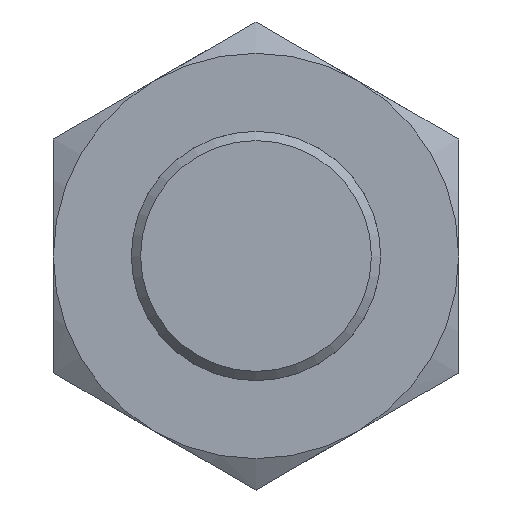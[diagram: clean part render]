
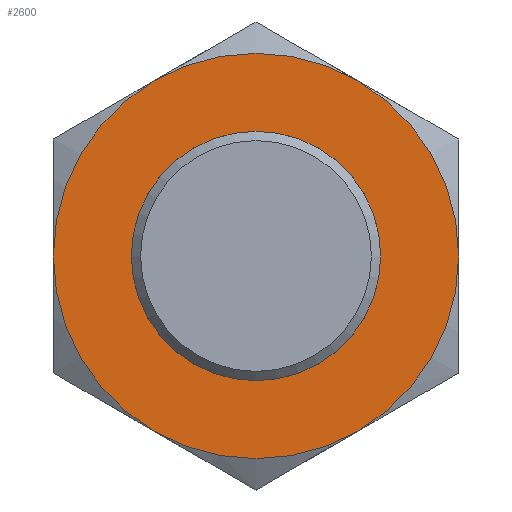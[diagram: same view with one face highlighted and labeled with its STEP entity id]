
A CAD part, left-side view. The second image highlights one B-rep face of the part: STEP entity #2600.
In plain terms, the highlighted planar face has unit normal (-1, 0, 0).
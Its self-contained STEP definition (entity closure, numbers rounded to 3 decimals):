
#60 = AXIS2_PLACEMENT_3D ( 'NONE', #1566, #2641, #348 ) ;
#135 = EDGE_CURVE ( 'NONE', #2475, #2475, #2214, .T. ) ;
#189 = VERTEX_POINT ( 'NONE', #378 ) ;
#210 = DIRECTION ( 'NONE',  ( -1., 0., 0. ) ) ;
#241 = DIRECTION ( 'NONE',  ( 0., 1., 0. ) ) ;
#254 = AXIS2_PLACEMENT_3D ( 'NONE', #2208, #965, #973 ) ;
#279 = CARTESIAN_POINT ( 'NONE',  ( -1.5, 0., 0. ) ) ;
#289 = EDGE_CURVE ( 'NONE', #2568, #480, #1550, .T. ) ;
#321 = VERTEX_POINT ( 'NONE', #2172 ) ;
#347 = ORIENTED_EDGE ( 'NONE', *, *, #1757, .T. ) ;
#348 = DIRECTION ( 'NONE',  ( 0., -1., 0. ) ) ;
#378 = CARTESIAN_POINT ( 'NONE',  ( -1.5, -6.5, 0. ) ) ;
#436 = PLANE ( 'NONE',  #2354 ) ;
#480 = VERTEX_POINT ( 'NONE', #1346 ) ;
#482 = CARTESIAN_POINT ( 'NONE',  ( -1.5, 0., 0. ) ) ;
#491 = DIRECTION ( 'NONE',  ( 0., -1., 0. ) ) ;
#506 = CIRCLE ( 'NONE', #2592, 6.5 ) ;
#512 = VERTEX_POINT ( 'NONE', #2292 ) ;
#544 = DIRECTION ( 'NONE',  ( -1., 0., 0. ) ) ;
#618 = EDGE_LOOP ( 'NONE', ( #1532, #347, #2064, #1641, #2379, #982 ) ) ;
#685 = DIRECTION ( 'NONE',  ( -1., 0., 0. ) ) ;
#812 = CARTESIAN_POINT ( 'NONE',  ( -1.5, 3.25, -5.629 ) ) ;
#926 = FACE_BOUND ( 'NONE', #2305, .T. ) ;
#965 = DIRECTION ( 'NONE',  ( -1., 0., 0. ) ) ;
#973 = DIRECTION ( 'NONE',  ( 0., -1., 0. ) ) ;
#974 = EDGE_CURVE ( 'NONE', #512, #2568, #1324, .T. ) ;
#982 = ORIENTED_EDGE ( 'NONE', *, *, #974, .T. ) ;
#998 = FACE_OUTER_BOUND ( 'NONE', #618, .T. ) ;
#1296 = DIRECTION ( 'NONE',  ( 1., 0., 0. ) ) ;
#1324 = CIRCLE ( 'NONE', #1558, 6.5 ) ;
#1346 = CARTESIAN_POINT ( 'NONE',  ( -1.5, -3.25, -5.629 ) ) ;
#1423 = DIRECTION ( 'NONE',  ( -1., 0., 0. ) ) ;
#1433 = CARTESIAN_POINT ( 'NONE',  ( -1.5, 0., 0. ) ) ;
#1484 = DIRECTION ( 'NONE',  ( 0., -1., 0. ) ) ;
#1532 = ORIENTED_EDGE ( 'NONE', *, *, #289, .T. ) ;
#1544 = CIRCLE ( 'NONE', #1902, 6.5 ) ;
#1550 = CIRCLE ( 'NONE', #2695, 6.5 ) ;
#1552 = EDGE_CURVE ( 'NONE', #1732, #321, #1544, .T. ) ;
#1558 = AXIS2_PLACEMENT_3D ( 'NONE', #1433, #1423, #1857 ) ;
#1566 = CARTESIAN_POINT ( 'NONE',  ( -1.5, 0., 0. ) ) ;
#1641 = ORIENTED_EDGE ( 'NONE', *, *, #1552, .T. ) ;
#1643 = DIRECTION ( 'NONE',  ( 0., -1., 0. ) ) ;
#1644 = EDGE_CURVE ( 'NONE', #321, #512, #1740, .T. ) ;
#1732 = VERTEX_POINT ( 'NONE', #2317 ) ;
#1740 = CIRCLE ( 'NONE', #60, 6.5 ) ;
#1757 = EDGE_CURVE ( 'NONE', #480, #189, #2150, .T. ) ;
#1857 = DIRECTION ( 'NONE',  ( 0., -1., 0. ) ) ;
#1902 = AXIS2_PLACEMENT_3D ( 'NONE', #279, #1940, #2582 ) ;
#1940 = DIRECTION ( 'NONE',  ( -1., 0., 0. ) ) ;
#1975 = CARTESIAN_POINT ( 'NONE',  ( -1.5, -4., 0. ) ) ;
#2064 = ORIENTED_EDGE ( 'NONE', *, *, #2342, .T. ) ;
#2125 = CARTESIAN_POINT ( 'NONE',  ( -1.5, 0., 0. ) ) ;
#2150 = CIRCLE ( 'NONE', #2341, 6.5 ) ;
#2172 = CARTESIAN_POINT ( 'NONE',  ( -1.5, 3.25, 5.629 ) ) ;
#2208 = CARTESIAN_POINT ( 'NONE',  ( -1.5, 0., 0. ) ) ;
#2214 = CIRCLE ( 'NONE', #254, 4. ) ;
#2219 = CARTESIAN_POINT ( 'NONE',  ( -1.5, 0., 0. ) ) ;
#2292 = CARTESIAN_POINT ( 'NONE',  ( -1.5, 6.5, 0. ) ) ;
#2305 = EDGE_LOOP ( 'NONE', ( #2460 ) ) ;
#2317 = CARTESIAN_POINT ( 'NONE',  ( -1.5, -3.25, 5.629 ) ) ;
#2341 = AXIS2_PLACEMENT_3D ( 'NONE', #2219, #544, #1643 ) ;
#2342 = EDGE_CURVE ( 'NONE', #189, #1732, #506, .T. ) ;
#2354 = AXIS2_PLACEMENT_3D ( 'NONE', #2125, #1296, #241 ) ;
#2379 = ORIENTED_EDGE ( 'NONE', *, *, #1644, .T. ) ;
#2460 = ORIENTED_EDGE ( 'NONE', *, *, #135, .F. ) ;
#2475 = VERTEX_POINT ( 'NONE', #1975 ) ;
#2568 = VERTEX_POINT ( 'NONE', #812 ) ;
#2582 = DIRECTION ( 'NONE',  ( 0., -1., 0. ) ) ;
#2592 = AXIS2_PLACEMENT_3D ( 'NONE', #482, #685, #491 ) ;
#2600 = ADVANCED_FACE ( 'NONE', ( #998, #926 ), #436, .F. ) ;
#2641 = DIRECTION ( 'NONE',  ( -1., 0., 0. ) ) ;
#2695 = AXIS2_PLACEMENT_3D ( 'NONE', #2699, #210, #1484 ) ;
#2699 = CARTESIAN_POINT ( 'NONE',  ( -1.5, 0., 0. ) ) ;
